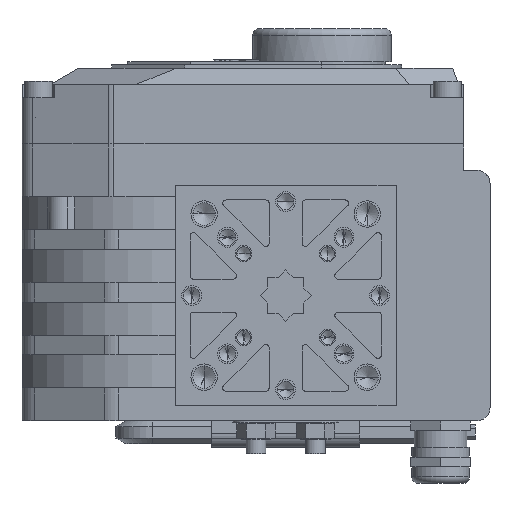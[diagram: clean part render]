
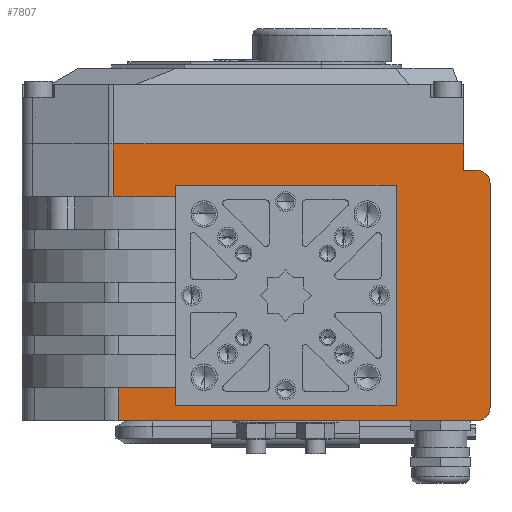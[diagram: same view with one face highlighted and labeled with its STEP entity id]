
A CAD part, front view. The second image highlights one B-rep face of the part: STEP entity #7807.
In plain terms, the highlighted planar face has unit normal (0, -1, 0).
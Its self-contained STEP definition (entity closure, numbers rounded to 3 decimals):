
#2780=DIRECTION('',(1.,0.,0.));
#2781=VECTOR('',#2780,108.749);
#2782=CARTESIAN_POINT('',(-47.,-36.5,0.));
#2783=LINE('',#2782,#2781);
#3207=DIRECTION('',(-1.,0.,0.));
#3208=VECTOR('',#3207,18.604);
#3209=CARTESIAN_POINT('',(63.104,-36.5,-68.));
#3210=LINE('',#3209,#3208);
#3467=DIRECTION('',(0.,0.,1.));
#3468=VECTOR('',#3467,16.);
#3469=CARTESIAN_POINT('',(63.104,-36.5,-84.));
#3470=LINE('',#3469,#3468);
#3471=DIRECTION('',(-1.,0.,0.));
#3472=VECTOR('',#3471,106.104);
#3473=CARTESIAN_POINT('',(63.104,-36.5,-84.));
#3474=LINE('',#3473,#3472);
#3475=CARTESIAN_POINT('',(-47.,-36.5,-72.));
#3476=DIRECTION('',(0.,-1.,0.));
#3477=DIRECTION('',(-1.,0.,0.));
#3478=AXIS2_PLACEMENT_3D('',#3475,#3476,#3477);
#3480=DIRECTION('',(0.,0.,-1.));
#3481=VECTOR('',#3480,68.);
#3482=CARTESIAN_POINT('',(-51.,-36.5,-4.));
#3483=LINE('',#3482,#3481);
#3484=CARTESIAN_POINT('',(-47.,-36.5,-4.));
#3485=DIRECTION('',(0.,-1.,0.));
#3486=DIRECTION('',(0.,0.,1.));
#3487=AXIS2_PLACEMENT_3D('',#3484,#3485,#3486);
#3489=DIRECTION('',(0.,0.,1.));
#3490=VECTOR('',#3489,10.);
#3491=CARTESIAN_POINT('',(61.749,-36.5,-10.));
#3492=LINE('',#3491,#3490);
#3493=DIRECTION('',(-1.,0.,0.));
#3494=VECTOR('',#3493,17.249);
#3495=CARTESIAN_POINT('',(61.749,-36.5,-10.));
#3496=LINE('',#3495,#3494);
#3497=DIRECTION('',(0.,0.,1.));
#3498=VECTOR('',#3497,5.5);
#3499=CARTESIAN_POINT('',(44.5,-36.5,-10.));
#3500=LINE('',#3499,#3498);
#3501=DIRECTION('',(-1.,0.,0.));
#3502=VECTOR('',#3501,67.);
#3503=CARTESIAN_POINT('',(44.5,-36.5,-4.5));
#3504=LINE('',#3503,#3502);
#3505=DIRECTION('',(0.,0.,-1.));
#3506=VECTOR('',#3505,67.);
#3507=CARTESIAN_POINT('',(-22.5,-36.5,-4.5));
#3508=LINE('',#3507,#3506);
#3509=DIRECTION('',(1.,0.,0.));
#3510=VECTOR('',#3509,67.);
#3511=CARTESIAN_POINT('',(-22.5,-36.5,-71.5));
#3512=LINE('',#3511,#3510);
#3513=DIRECTION('',(0.,0.,1.));
#3514=VECTOR('',#3513,3.5);
#3515=CARTESIAN_POINT('',(44.5,-36.5,-71.5));
#3516=LINE('',#3515,#3514);
#3806=DIRECTION('',(1.,0.,0.));
#3807=VECTOR('',#3806,4.);
#3808=CARTESIAN_POINT('',(-47.,-36.5,-76.));
#3809=LINE('',#3808,#3807);
#3842=DIRECTION('',(0.,0.,-1.));
#3843=VECTOR('',#3842,8.);
#3844=CARTESIAN_POINT('',(-43.,-36.5,-76.));
#3845=LINE('',#3844,#3843);
#6014=CARTESIAN_POINT('',(-43.,-36.5,-84.));
#6016=VERTEX_POINT('',#6014);
#6018=CARTESIAN_POINT('',(-43.,-36.5,-76.));
#6020=VERTEX_POINT('',#6018);
#6022=CARTESIAN_POINT('',(-47.,-36.5,0.));
#6023=CARTESIAN_POINT('',(-51.,-36.5,-4.));
#6024=VERTEX_POINT('',#6022);
#6025=VERTEX_POINT('',#6023);
#6034=CARTESIAN_POINT('',(-51.,-36.5,-72.));
#6035=CARTESIAN_POINT('',(-47.,-36.5,-76.));
#6036=VERTEX_POINT('',#6034);
#6037=VERTEX_POINT('',#6035);
#6066=CARTESIAN_POINT('',(61.749,-36.5,0.));
#6068=VERTEX_POINT('',#6066);
#6210=CARTESIAN_POINT('',(61.749,-36.5,-10.));
#6211=VERTEX_POINT('',#6210);
#6306=CARTESIAN_POINT('',(-22.5,-36.5,-4.5));
#6307=CARTESIAN_POINT('',(-22.5,-36.5,-71.5));
#6308=VERTEX_POINT('',#6306);
#6309=VERTEX_POINT('',#6307);
#6310=CARTESIAN_POINT('',(44.5,-36.5,-71.5));
#6311=VERTEX_POINT('',#6310);
#6312=CARTESIAN_POINT('',(44.5,-36.5,-68.));
#6313=VERTEX_POINT('',#6312);
#6326=CARTESIAN_POINT('',(44.5,-36.5,-10.));
#6327=CARTESIAN_POINT('',(44.5,-36.5,-4.5));
#6328=VERTEX_POINT('',#6326);
#6329=VERTEX_POINT('',#6327);
#7002=CARTESIAN_POINT('',(63.104,-36.5,-68.));
#7004=VERTEX_POINT('',#7002);
#7008=CARTESIAN_POINT('',(63.104,-36.5,-84.));
#7009=VERTEX_POINT('',#7008);
#7772=CARTESIAN_POINT('',(-51.,-36.5,0.));
#7773=DIRECTION('',(0.,-1.,0.));
#7774=DIRECTION('',(1.,0.,0.));
#7775=AXIS2_PLACEMENT_3D('',#7772,#7773,#7774);
#7776=PLANE('',#7775);
#7778=ORIENTED_EDGE('',*,*,#7777,.F.);
#7780=ORIENTED_EDGE('',*,*,#7779,.T.);
#7782=ORIENTED_EDGE('',*,*,#7781,.F.);
#7784=ORIENTED_EDGE('',*,*,#7783,.F.);
#7786=ORIENTED_EDGE('',*,*,#7785,.F.);
#7788=ORIENTED_EDGE('',*,*,#7787,.F.);
#7789=ORIENTED_EDGE('',*,*,#7717,.F.);
#7790=ORIENTED_EDGE('',*,*,#7029,.T.);
#7792=ORIENTED_EDGE('',*,*,#7791,.F.);
#7793=ORIENTED_EDGE('',*,*,#7171,.T.);
#7795=ORIENTED_EDGE('',*,*,#7794,.T.);
#7797=ORIENTED_EDGE('',*,*,#7796,.T.);
#7799=ORIENTED_EDGE('',*,*,#7798,.T.);
#7801=ORIENTED_EDGE('',*,*,#7800,.T.);
#7803=ORIENTED_EDGE('',*,*,#7802,.T.);
#7804=ORIENTED_EDGE('',*,*,#7433,.F.);
#7805=EDGE_LOOP('',(#7778,#7780,#7782,#7784,#7786,#7788,#7789,#7790,#7792,#7793,
#7795,#7797,#7799,#7801,#7803,#7804));
#7806=FACE_OUTER_BOUND('',#7805,.F.);
#7807=ADVANCED_FACE('',(#7806),#7776,.T.);
#3479=CIRCLE('',#3478,4.);
#3488=CIRCLE('',#3487,4.);
#7029=EDGE_CURVE('',#6024,#6068,#2783,.T.);
#7171=EDGE_CURVE('',#6211,#6328,#3496,.T.);
#7433=EDGE_CURVE('',#7004,#6313,#3210,.T.);
#7717=EDGE_CURVE('',#6024,#6025,#3488,.T.);
#7777=EDGE_CURVE('',#7009,#7004,#3470,.T.);
#7779=EDGE_CURVE('',#7009,#6016,#3474,.T.);
#7781=EDGE_CURVE('',#6020,#6016,#3845,.T.);
#7783=EDGE_CURVE('',#6037,#6020,#3809,.T.);
#7785=EDGE_CURVE('',#6036,#6037,#3479,.T.);
#7787=EDGE_CURVE('',#6025,#6036,#3483,.T.);
#7791=EDGE_CURVE('',#6211,#6068,#3492,.T.);
#7794=EDGE_CURVE('',#6328,#6329,#3500,.T.);
#7796=EDGE_CURVE('',#6329,#6308,#3504,.T.);
#7798=EDGE_CURVE('',#6308,#6309,#3508,.T.);
#7800=EDGE_CURVE('',#6309,#6311,#3512,.T.);
#7802=EDGE_CURVE('',#6311,#6313,#3516,.T.);
